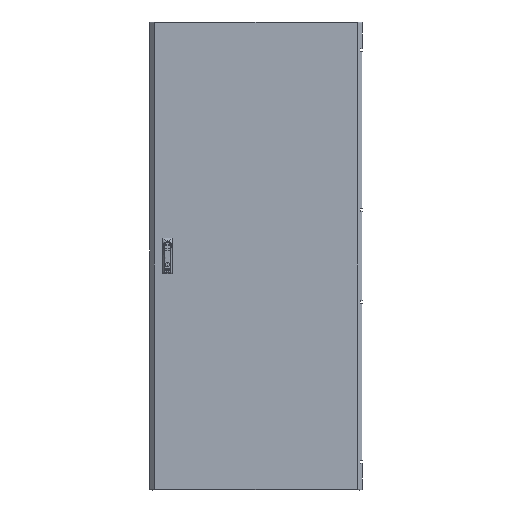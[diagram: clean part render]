
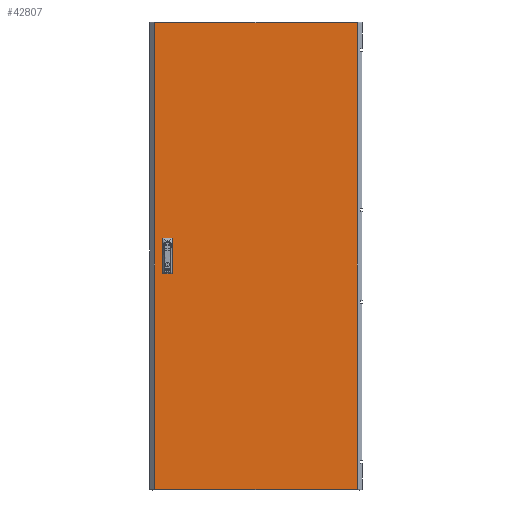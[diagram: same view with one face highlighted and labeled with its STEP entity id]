
A CAD part, top view. The second image highlights one B-rep face of the part: STEP entity #42807.
In plain terms, the highlighted planar face has unit normal (0, 0, 1).
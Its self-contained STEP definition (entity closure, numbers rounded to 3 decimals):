
#2367 = CARTESIAN_POINT ( 'NONE',  ( -342.5, 12.5, 0. ) ) ;
#2439 = AXIS2_PLACEMENT_3D ( 'NONE', #118138, #43064, #31055 ) ;
#3763 = CARTESIAN_POINT ( 'NONE',  ( -342.5, 12.5, 0. ) ) ;
#4938 = ORIENTED_EDGE ( 'NONE', *, *, #89045, .F. ) ;
#5059 = VERTEX_POINT ( 'NONE', #120860 ) ;
#9819 = FACE_OUTER_BOUND ( 'NONE', #134267, .T. ) ;
#10469 = DIRECTION ( 'NONE',  ( 1., 0., 0. ) ) ;
#10802 = CARTESIAN_POINT ( 'NONE',  ( -317.5, -62.5, 0. ) ) ;
#12802 = EDGE_CURVE ( 'NONE', #87955, #59000, #87060, .T. ) ;
#13783 = CARTESIAN_POINT ( 'NONE',  ( -342.5, 62.5, 0. ) ) ;
#15109 = ORIENTED_EDGE ( 'NONE', *, *, #87123, .F. ) ;
#15567 = LINE ( 'NONE', #101930, #96228 ) ;
#16653 = CARTESIAN_POINT ( 'NONE',  ( 377.875, -869.5, 0. ) ) ;
#22105 = CARTESIAN_POINT ( 'NONE',  ( -317.5, 12.5, 0. ) ) ;
#22473 = DIRECTION ( 'NONE',  ( 0., -1., 0. ) ) ;
#22532 = VERTEX_POINT ( 'NONE', #10802 ) ;
#22877 = EDGE_CURVE ( 'NONE', #64449, #92237, #33812, .T. ) ;
#22880 = DIRECTION ( 'NONE',  ( -1., 0., 0. ) ) ;
#23976 = CARTESIAN_POINT ( 'NONE',  ( -377.875, 869.5, 0. ) ) ;
#25588 = EDGE_CURVE ( 'NONE', #5059, #87955, #116430, .T. ) ;
#25667 = DIRECTION ( 'NONE',  ( 1., 0., 0. ) ) ;
#28653 = DIRECTION ( 'NONE',  ( 0., 1., 0. ) ) ;
#29075 = CARTESIAN_POINT ( 'NONE',  ( -342.5, -12.5, 0. ) ) ;
#30840 = VERTEX_POINT ( 'NONE', #130601 ) ;
#31017 = ORIENTED_EDGE ( 'NONE', *, *, #112579, .T. ) ;
#31055 = DIRECTION ( 'NONE',  ( -1., 0., 0. ) ) ;
#32137 = VECTOR ( 'NONE', #98386, 1000. ) ;
#33596 = ORIENTED_EDGE ( 'NONE', *, *, #35735, .F. ) ;
#33812 = LINE ( 'NONE', #97558, #84783 ) ;
#35735 = EDGE_CURVE ( 'NONE', #76539, #65429, #60591, .T. ) ;
#37271 = EDGE_CURVE ( 'NONE', #51590, #5059, #64250, .T. ) ;
#42807 = ADVANCED_FACE ( 'NONE', ( #116749, #63593, #9819 ), #74943, .F. ) ;
#43064 = DIRECTION ( 'NONE',  ( 0., 0., -1. ) ) ;
#46699 = CARTESIAN_POINT ( 'NONE',  ( -377.875, -869.5, 0. ) ) ;
#47336 = CARTESIAN_POINT ( 'NONE',  ( -377.875, 869.5, 0. ) ) ;
#48578 = DIRECTION ( 'NONE',  ( 0., 1., 0. ) ) ;
#51202 = CARTESIAN_POINT ( 'NONE',  ( -317.5, -62.5, 0. ) ) ;
#51590 = VERTEX_POINT ( 'NONE', #46699 ) ;
#52319 = ORIENTED_EDGE ( 'NONE', *, *, #109300, .F. ) ;
#55180 = VECTOR ( 'NONE', #72243, 1000. ) ;
#59000 = VERTEX_POINT ( 'NONE', #47336 ) ;
#60591 = LINE ( 'NONE', #134987, #73978 ) ;
#61132 = LINE ( 'NONE', #51202, #112412 ) ;
#63346 = EDGE_LOOP ( 'NONE', ( #82593, #33596, #4938, #79788 ) ) ;
#63593 = FACE_BOUND ( 'NONE', #118560, .T. ) ;
#64124 = VERTEX_POINT ( 'NONE', #2367 ) ;
#64250 = LINE ( 'NONE', #99491, #117259 ) ;
#64449 = VERTEX_POINT ( 'NONE', #69223 ) ;
#65429 = VERTEX_POINT ( 'NONE', #119941 ) ;
#69223 = CARTESIAN_POINT ( 'NONE',  ( -342.5, -12.5, 0. ) ) ;
#72243 = DIRECTION ( 'NONE',  ( -1., 0., 0. ) ) ;
#73978 = VECTOR ( 'NONE', #48578, 1000. ) ;
#74943 = PLANE ( 'NONE',  #2439 ) ;
#76539 = VERTEX_POINT ( 'NONE', #22105 ) ;
#79512 = CARTESIAN_POINT ( 'NONE',  ( -342.5, -62.5, 0. ) ) ;
#79788 = ORIENTED_EDGE ( 'NONE', *, *, #98497, .F. ) ;
#81404 = DIRECTION ( 'NONE',  ( 1., 0., 0. ) ) ;
#82593 = ORIENTED_EDGE ( 'NONE', *, *, #136844, .F. ) ;
#82898 = LINE ( 'NONE', #29075, #55180 ) ;
#84783 = VECTOR ( 'NONE', #22473, 1000. ) ;
#85029 = ORIENTED_EDGE ( 'NONE', *, *, #12802, .T. ) ;
#85968 = DIRECTION ( 'NONE',  ( 0., -1., 0. ) ) ;
#87060 = LINE ( 'NONE', #23976, #32137 ) ;
#87123 = EDGE_CURVE ( 'NONE', #30840, #64449, #82898, .T. ) ;
#87955 = VERTEX_POINT ( 'NONE', #119668 ) ;
#89045 = EDGE_CURVE ( 'NONE', #64124, #76539, #15567, .T. ) ;
#89437 = LINE ( 'NONE', #121312, #95301 ) ;
#92237 = VERTEX_POINT ( 'NONE', #135577 ) ;
#95301 = VECTOR ( 'NONE', #22880, 1000. ) ;
#96228 = VECTOR ( 'NONE', #81404, 1000. ) ;
#97558 = CARTESIAN_POINT ( 'NONE',  ( -342.5, -62.5, 0. ) ) ;
#98386 = DIRECTION ( 'NONE',  ( -1., 0., 0. ) ) ;
#98497 = EDGE_CURVE ( 'NONE', #109201, #64124, #119915, .T. ) ;
#99388 = LINE ( 'NONE', #130559, #116183 ) ;
#99491 = CARTESIAN_POINT ( 'NONE',  ( -377.875, -869.5, 0. ) ) ;
#101717 = VECTOR ( 'NONE', #28653, 1000. ) ;
#101930 = CARTESIAN_POINT ( 'NONE',  ( -342.5, 12.5, 0. ) ) ;
#104246 = VECTOR ( 'NONE', #108569, 1000. ) ;
#104339 = DIRECTION ( 'NONE',  ( 0., 1., 0. ) ) ;
#108569 = DIRECTION ( 'NONE',  ( 0., -1., 0. ) ) ;
#108820 = ORIENTED_EDGE ( 'NONE', *, *, #124958, .F. ) ;
#109201 = VERTEX_POINT ( 'NONE', #13783 ) ;
#109300 = EDGE_CURVE ( 'NONE', #22532, #30840, #61132, .T. ) ;
#109817 = ORIENTED_EDGE ( 'NONE', *, *, #37271, .T. ) ;
#111364 = LINE ( 'NONE', #79512, #137781 ) ;
#112412 = VECTOR ( 'NONE', #104339, 1000. ) ;
#112579 = EDGE_CURVE ( 'NONE', #59000, #51590, #99388, .T. ) ;
#116183 = VECTOR ( 'NONE', #85968, 1000. ) ;
#116430 = LINE ( 'NONE', #16653, #101717 ) ;
#116749 = FACE_BOUND ( 'NONE', #63346, .T. ) ;
#117259 = VECTOR ( 'NONE', #10469, 1000. ) ;
#118138 = CARTESIAN_POINT ( 'NONE',  ( 0., 0., 0. ) ) ;
#118560 = EDGE_LOOP ( 'NONE', ( #15109, #52319, #108820, #129252 ) ) ;
#119668 = CARTESIAN_POINT ( 'NONE',  ( 377.875, 869.5, 0. ) ) ;
#119915 = LINE ( 'NONE', #3763, #104246 ) ;
#119941 = CARTESIAN_POINT ( 'NONE',  ( -317.5, 62.5, 0. ) ) ;
#120860 = CARTESIAN_POINT ( 'NONE',  ( 377.875, -869.5, 0. ) ) ;
#121312 = CARTESIAN_POINT ( 'NONE',  ( -342.5, 62.5, 0. ) ) ;
#124958 = EDGE_CURVE ( 'NONE', #92237, #22532, #111364, .T. ) ;
#125396 = ORIENTED_EDGE ( 'NONE', *, *, #25588, .T. ) ;
#129252 = ORIENTED_EDGE ( 'NONE', *, *, #22877, .F. ) ;
#130559 = CARTESIAN_POINT ( 'NONE',  ( -377.875, -869.5, 0. ) ) ;
#130601 = CARTESIAN_POINT ( 'NONE',  ( -317.5, -12.5, 0. ) ) ;
#134267 = EDGE_LOOP ( 'NONE', ( #125396, #85029, #31017, #109817 ) ) ;
#134987 = CARTESIAN_POINT ( 'NONE',  ( -317.5, 12.5, 0. ) ) ;
#135577 = CARTESIAN_POINT ( 'NONE',  ( -342.5, -62.5, 0. ) ) ;
#136844 = EDGE_CURVE ( 'NONE', #65429, #109201, #89437, .T. ) ;
#137781 = VECTOR ( 'NONE', #25667, 1000. ) ;
